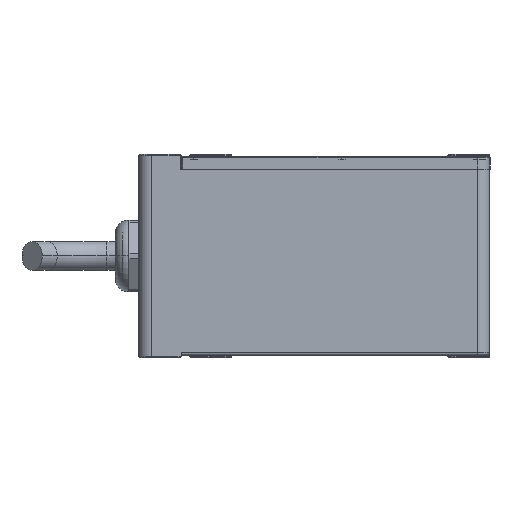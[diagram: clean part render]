
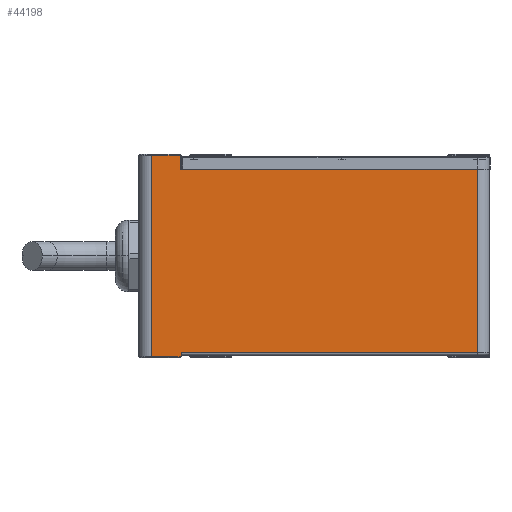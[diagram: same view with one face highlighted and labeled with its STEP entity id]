
A CAD part, left-side view. The second image highlights one B-rep face of the part: STEP entity #44198.
In plain terms, the highlighted planar face has unit normal (-1, 0, 0).
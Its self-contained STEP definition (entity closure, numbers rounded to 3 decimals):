
#3860 = VERTEX_POINT ( 'NONE', #10801 ) ;
#3956 = VERTEX_POINT ( 'NONE', #10895 ) ;
#3957 = VERTEX_POINT ( 'NONE', #10896 ) ;
#3964 = VERTEX_POINT ( 'NONE', #10903 ) ;
#3965 = VERTEX_POINT ( 'NONE', #10904 ) ;
#3966 = VERTEX_POINT ( 'NONE', #10905 ) ;
#3967 = VERTEX_POINT ( 'NONE', #10906 ) ;
#3969 = VERTEX_POINT ( 'NONE', #10908 ) ;
#6062 = EDGE_CURVE ( 'NONE', #3956, #3957, #25606, .T. ) ;
#6063 = EDGE_CURVE ( 'NONE', #3956, #3964, #25607, .T. ) ;
#6064 = EDGE_CURVE ( 'NONE', #3964, #3965, #25596, .T. ) ;
#6065 = EDGE_CURVE ( 'NONE', #3965, #3966, #25611, .T. ) ;
#6066 = EDGE_CURVE ( 'NONE', #3966, #3967, #25613, .T. ) ;
#6067 = EDGE_CURVE ( 'NONE', #3860, #3967, #25615, .T. ) ;
#6068 = EDGE_CURVE ( 'NONE', #3860, #3969, #25609, .T. ) ;
#6069 = EDGE_CURVE ( 'NONE', #3969, #3957, #25619, .T. ) ;
#10801 = CARTESIAN_POINT ( 'NONE',  ( 0., 73., 1.2 ) ) ;
#10895 = CARTESIAN_POINT ( 'NONE',  ( 0., 73.15, 44.5 ) ) ;
#10896 = CARTESIAN_POINT ( 'NONE',  ( 0., 3., 44.5 ) ) ;
#10903 = CARTESIAN_POINT ( 'NONE',  ( 0., 73.15, 47.85 ) ) ;
#10904 = CARTESIAN_POINT ( 'NONE',  ( 0., 80., 47.85 ) ) ;
#10905 = CARTESIAN_POINT ( 'NONE',  ( 0., 80., 0.15 ) ) ;
#10906 = CARTESIAN_POINT ( 'NONE',  ( 0., 73., 0.15 ) ) ;
#10908 = CARTESIAN_POINT ( 'NONE',  ( 0., 3., 1.2 ) ) ;
#20797 = EDGE_LOOP ( 'NONE', ( #38727, #38729, #38730, #38731, #38733, #38734, #38736, #38737 ) ) ;
#25596 = LINE ( 'NONE', #27487, #25612 ) ;
#25606 = LINE ( 'NONE', #27474, #25608 ) ;
#25607 = LINE ( 'NONE', #27495, #25610 ) ;
#25608 = VECTOR ( 'NONE', #27476, 1000. ) ;
#25609 = LINE ( 'NONE', #27485, #25620 ) ;
#25610 = VECTOR ( 'NONE', #27498, 1000. ) ;
#25611 = LINE ( 'NONE', #27504, #25614 ) ;
#25612 = VECTOR ( 'NONE', #27499, 1000. ) ;
#25613 = LINE ( 'NONE', #27510, #25616 ) ;
#25614 = VECTOR ( 'NONE', #27507, 1000. ) ;
#25615 = LINE ( 'NONE', #27515, #25618 ) ;
#25616 = VECTOR ( 'NONE', #27512, 1000. ) ;
#25618 = VECTOR ( 'NONE', #27518, 1000. ) ;
#25619 = LINE ( 'NONE', #27524, #25622 ) ;
#25620 = VECTOR ( 'NONE', #27519, 1000. ) ;
#25622 = VECTOR ( 'NONE', #27527, 1000. ) ;
#26854 = AXIS2_PLACEMENT_3D ( 'NONE', #32680, #32688, #32689 ) ;
#27474 = CARTESIAN_POINT ( 'NONE',  ( 0., 73., 44.5 ) ) ;
#27476 = DIRECTION ( 'NONE',  ( 0., -1., 0. ) ) ;
#27485 = CARTESIAN_POINT ( 'NONE',  ( 0., 0., 1.2 ) ) ;
#27487 = CARTESIAN_POINT ( 'NONE',  ( 0., 0., 47.85 ) ) ;
#27495 = CARTESIAN_POINT ( 'NONE',  ( 0., 73.15, 48. ) ) ;
#27498 = DIRECTION ( 'NONE',  ( 0., 0., 1. ) ) ;
#27499 = DIRECTION ( 'NONE',  ( 0., 1., 0. ) ) ;
#27504 = CARTESIAN_POINT ( 'NONE',  ( 0., 80., 48. ) ) ;
#27507 = DIRECTION ( 'NONE',  ( 0., 0., -1. ) ) ;
#27510 = CARTESIAN_POINT ( 'NONE',  ( 0., 73., 0.15 ) ) ;
#27512 = DIRECTION ( 'NONE',  ( 0., -1., 0. ) ) ;
#27515 = CARTESIAN_POINT ( 'NONE',  ( 0., 73., 0.5 ) ) ;
#27518 = DIRECTION ( 'NONE',  ( 0., 0., -1. ) ) ;
#27519 = DIRECTION ( 'NONE',  ( 0., -1., 0. ) ) ;
#27524 = CARTESIAN_POINT ( 'NONE',  ( 0., 3., 48. ) ) ;
#27527 = DIRECTION ( 'NONE',  ( 0., 0., 1. ) ) ;
#32680 = CARTESIAN_POINT ( 'NONE',  ( 0., 0., 48. ) ) ;
#32684 = PLANE ( 'NONE',  #26854 ) ;
#32688 = DIRECTION ( 'NONE',  ( 1., 0., 0. ) ) ;
#32689 = DIRECTION ( 'NONE',  ( 0., 0., -1. ) ) ;
#33622 = FACE_OUTER_BOUND ( 'NONE', #20797, .T. ) ;
#38727 = ORIENTED_EDGE ( 'NONE', *, *, #6062, .F. ) ;
#38729 = ORIENTED_EDGE ( 'NONE', *, *, #6063, .T. ) ;
#38730 = ORIENTED_EDGE ( 'NONE', *, *, #6064, .T. ) ;
#38731 = ORIENTED_EDGE ( 'NONE', *, *, #6065, .T. ) ;
#38733 = ORIENTED_EDGE ( 'NONE', *, *, #6066, .T. ) ;
#38734 = ORIENTED_EDGE ( 'NONE', *, *, #6067, .F. ) ;
#38736 = ORIENTED_EDGE ( 'NONE', *, *, #6068, .T. ) ;
#38737 = ORIENTED_EDGE ( 'NONE', *, *, #6069, .T. ) ;
#44198 = ADVANCED_FACE ( 'NONE', ( #33622 ), #32684, .F. ) ;
